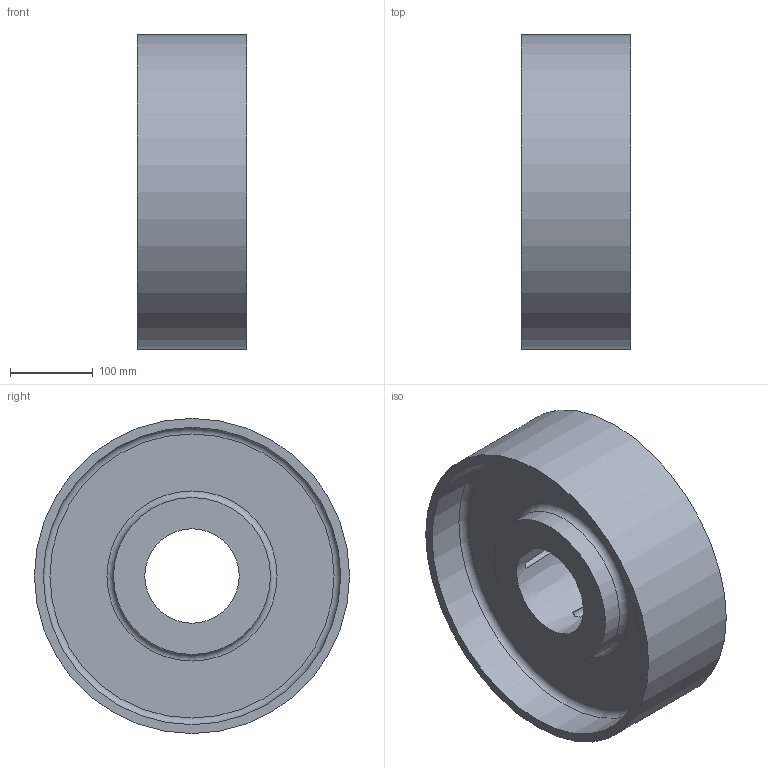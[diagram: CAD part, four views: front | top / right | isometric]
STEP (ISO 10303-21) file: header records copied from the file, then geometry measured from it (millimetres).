
FILE_DESCRIPTION(/* description */ (''),/* implementation_level */ '2;1');
FILE_NAME(/* name */ 'C:\Users\stagistaCAD\Desktop\41690090.stp',/* time_stamp */ '2018-06-21T10:19:09+02:00',/* author */ ('stagistacad'),/* organization */ (''),/* preprocessor_version */ 'ST-DEVELOPER v15.6',/* originating_system */ 'Autodesk Inventor 2015',/* authorisation */ '');
FILE_SCHEMA (('AUTOMOTIVE_DESIGN { 1 0 10303 214 3 1 1 }'));
Length unit declared in the file: millimetre
Products named in the file (1): 41690090
Bounding box: 133 x 381.52 x 381.52 mm (x, y, z)
Volume: 5034917.7 mm3; surface area: 550268.8 mm2
Topology: 1 solids, 1 shells, 32 faces, 84 edges, 53 vertices
Faces by surface type: cylinder 13, plane 9, cone 6, torus 4
Full cylindrical faces by diameter (mm): 190 x2, 360 x2, 381.52 x1
Entity records: 1012 total; most frequent: CARTESIAN_POINT 300, DIRECTION 150, ORIENTED_EDGE 126, AXIS2_PLACEMENT_3D 75, EDGE_CURVE 63, EDGE_LOOP 48, VERTEX_POINT 47, CIRCLE 42
